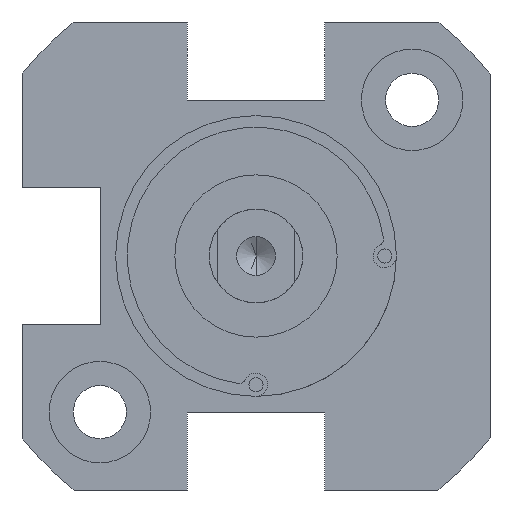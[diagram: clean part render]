
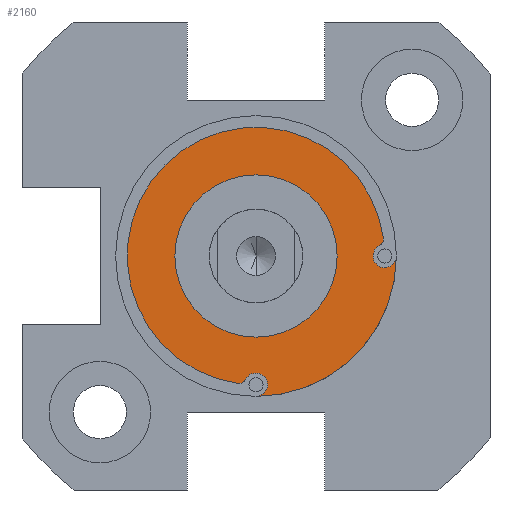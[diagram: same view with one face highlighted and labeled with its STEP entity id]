
A CAD part, front view. The second image highlights one B-rep face of the part: STEP entity #2160.
In plain terms, the highlighted planar face has unit normal (0, -1, 0).
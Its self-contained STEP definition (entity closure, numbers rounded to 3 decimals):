
#4 = DIRECTION ( 'NONE',  ( 0., 1., 0. ) ) ;
#69 = CARTESIAN_POINT ( 'NONE',  ( 0., -46.5, 5.2 ) ) ;
#106 = EDGE_CURVE ( 'NONE', #1520, #593, #2419, .T. ) ;
#136 = ORIENTED_EDGE ( 'NONE', *, *, #1880, .T. ) ;
#184 = CARTESIAN_POINT ( 'NONE',  ( -0.665, -46.5, -7.902 ) ) ;
#219 = VERTEX_POINT ( 'NONE', #184 ) ;
#292 = AXIS2_PLACEMENT_3D ( 'NONE', #2038, #522, #2797 ) ;
#301 = DIRECTION ( 'NONE',  ( 0., 0., -1. ) ) ;
#331 = ORIENTED_EDGE ( 'NONE', *, *, #2875, .F. ) ;
#355 = EDGE_LOOP ( 'NONE', ( #2633, #1077 ) ) ;
#408 = DIRECTION ( 'NONE',  ( 0., -1., 0. ) ) ;
#445 = DIRECTION ( 'NONE',  ( 0., 0., -1. ) ) ;
#495 = EDGE_CURVE ( 'NONE', #1599, #1920, #1984, .T. ) ;
#519 = CIRCLE ( 'NONE', #2704, 0.75 ) ;
#522 = DIRECTION ( 'NONE',  ( 0., 1., 0. ) ) ;
#525 = DIRECTION ( 'NONE',  ( 0., 1., 0. ) ) ;
#575 = DIRECTION ( 'NONE',  ( 0., -1., 0. ) ) ;
#577 = ORIENTED_EDGE ( 'NONE', *, *, #2897, .T. ) ;
#587 = FACE_OUTER_BOUND ( 'NONE', #1047, .T. ) ;
#593 = VERTEX_POINT ( 'NONE', #2685 ) ;
#659 = AXIS2_PLACEMENT_3D ( 'NONE', #1580, #575, #1842 ) ;
#667 = CARTESIAN_POINT ( 'NONE',  ( -1.108, -46.5, -7.67 ) ) ;
#724 = AXIS2_PLACEMENT_3D ( 'NONE', #3037, #525, #2284 ) ;
#818 = CIRCLE ( 'NONE', #1329, 0.5 ) ;
#898 = VERTEX_POINT ( 'NONE', #2708 ) ;
#916 = AXIS2_PLACEMENT_3D ( 'NONE', #667, #408, #445 ) ;
#994 = DIRECTION ( 'NONE',  ( 0., 0., 1. ) ) ;
#1047 = EDGE_LOOP ( 'NONE', ( #577, #2861, #1247, #331, #1976, #136, #2530, #2838 ) ) ;
#1069 = EDGE_CURVE ( 'NONE', #1920, #1599, #1143, .T. ) ;
#1077 = ORIENTED_EDGE ( 'NONE', *, *, #1069, .T. ) ;
#1090 = DIRECTION ( 'NONE',  ( 0., 0., 1. ) ) ;
#1126 = DIRECTION ( 'NONE',  ( 0., 0., 1. ) ) ;
#1143 = CIRCLE ( 'NONE', #724, 5.2 ) ;
#1221 = CIRCLE ( 'NONE', #292, 9. ) ;
#1247 = ORIENTED_EDGE ( 'NONE', *, *, #1893, .T. ) ;
#1277 = DIRECTION ( 'NONE',  ( 0., 0., -1. ) ) ;
#1329 = AXIS2_PLACEMENT_3D ( 'NONE', #2545, #2796, #1277 ) ;
#1355 = CARTESIAN_POINT ( 'NONE',  ( 0., -46.5, 0. ) ) ;
#1385 = CARTESIAN_POINT ( 'NONE',  ( 8.25, -46.5, 0. ) ) ;
#1411 = DIRECTION ( 'NONE',  ( 0., 0., 1. ) ) ;
#1440 = VERTEX_POINT ( 'NONE', #1481 ) ;
#1481 = CARTESIAN_POINT ( 'NONE',  ( 9., -46.5, 0. ) ) ;
#1520 = VERTEX_POINT ( 'NONE', #2474 ) ;
#1532 = CARTESIAN_POINT ( 'NONE',  ( 8.25, -46.5, 0. ) ) ;
#1556 = CARTESIAN_POINT ( 'NONE',  ( 0., -46.5, 0. ) ) ;
#1580 = CARTESIAN_POINT ( 'NONE',  ( 0., -46.5, 0. ) ) ;
#1599 = VERTEX_POINT ( 'NONE', #2146 ) ;
#1639 = CIRCLE ( 'NONE', #2552, 0.75 ) ;
#1662 = AXIS2_PLACEMENT_3D ( 'NONE', #1355, #2379, #1126 ) ;
#1757 = CIRCLE ( 'NONE', #2747, 0.75 ) ;
#1802 = DIRECTION ( 'NONE',  ( 0., 0., 1. ) ) ;
#1821 = DIRECTION ( 'NONE',  ( 0., -1., 0. ) ) ;
#1842 = DIRECTION ( 'NONE',  ( 0., 0., 1. ) ) ;
#1880 = EDGE_CURVE ( 'NONE', #593, #219, #2843, .T. ) ;
#1891 = DIRECTION ( 'NONE',  ( 0., 1., 0. ) ) ;
#1893 = EDGE_CURVE ( 'NONE', #898, #2968, #818, .T. ) ;
#1920 = VERTEX_POINT ( 'NONE', #69 ) ;
#1976 = ORIENTED_EDGE ( 'NONE', *, *, #106, .T. ) ;
#1984 = CIRCLE ( 'NONE', #1662, 5.2 ) ;
#2003 = EDGE_CURVE ( 'NONE', #1440, #2922, #1221, .T. ) ;
#2038 = CARTESIAN_POINT ( 'NONE',  ( 0., -46.5, 0. ) ) ;
#2074 = AXIS2_PLACEMENT_3D ( 'NONE', #1556, #3023, #994 ) ;
#2146 = CARTESIAN_POINT ( 'NONE',  ( 0., -46.5, -5.2 ) ) ;
#2160 = ADVANCED_FACE ( 'NONE', ( #587, #2840 ), #3084, .T. ) ;
#2284 = DIRECTION ( 'NONE',  ( 0., 0., 1. ) ) ;
#2317 = CARTESIAN_POINT ( 'NONE',  ( -1.108, -46.5, -7.67 ) ) ;
#2379 = DIRECTION ( 'NONE',  ( 0., 1., 0. ) ) ;
#2419 = CIRCLE ( 'NONE', #916, 0.5 ) ;
#2422 = CIRCLE ( 'NONE', #2074, 8.25 ) ;
#2474 = CARTESIAN_POINT ( 'NONE',  ( -1.179, -46.5, -8.165 ) ) ;
#2530 = ORIENTED_EDGE ( 'NONE', *, *, #2638, .T. ) ;
#2545 = CARTESIAN_POINT ( 'NONE',  ( 7.67, -46.5, 1.108 ) ) ;
#2552 = AXIS2_PLACEMENT_3D ( 'NONE', #3174, #3150, #1411 ) ;
#2557 = CARTESIAN_POINT ( 'NONE',  ( 8.165, -46.5, 1.179 ) ) ;
#2633 = ORIENTED_EDGE ( 'NONE', *, *, #495, .T. ) ;
#2638 = EDGE_CURVE ( 'NONE', #219, #2922, #1639, .T. ) ;
#2685 = CARTESIAN_POINT ( 'NONE',  ( -1.108, -46.5, -8.17 ) ) ;
#2704 = AXIS2_PLACEMENT_3D ( 'NONE', #1385, #1891, #1090 ) ;
#2708 = CARTESIAN_POINT ( 'NONE',  ( 7.902, -46.5, 0.665 ) ) ;
#2728 = CARTESIAN_POINT ( 'NONE',  ( 8.25, -46.5, -0.75 ) ) ;
#2739 = VERTEX_POINT ( 'NONE', #2728 ) ;
#2747 = AXIS2_PLACEMENT_3D ( 'NONE', #1532, #4, #1802 ) ;
#2796 = DIRECTION ( 'NONE',  ( 0., -1., 0. ) ) ;
#2797 = DIRECTION ( 'NONE',  ( 0., 0., 1. ) ) ;
#2838 = ORIENTED_EDGE ( 'NONE', *, *, #2003, .F. ) ;
#2840 = FACE_BOUND ( 'NONE', #355, .T. ) ;
#2843 = CIRCLE ( 'NONE', #3112, 0.5 ) ;
#2861 = ORIENTED_EDGE ( 'NONE', *, *, #3136, .T. ) ;
#2875 = EDGE_CURVE ( 'NONE', #1520, #2968, #2422, .T. ) ;
#2897 = EDGE_CURVE ( 'NONE', #1440, #2739, #1757, .T. ) ;
#2922 = VERTEX_POINT ( 'NONE', #3040 ) ;
#2968 = VERTEX_POINT ( 'NONE', #2557 ) ;
#3023 = DIRECTION ( 'NONE',  ( 0., 1., 0. ) ) ;
#3037 = CARTESIAN_POINT ( 'NONE',  ( 0., -46.5, 0. ) ) ;
#3040 = CARTESIAN_POINT ( 'NONE',  ( 0., -46.5, -9. ) ) ;
#3084 = PLANE ( 'NONE',  #659 ) ;
#3112 = AXIS2_PLACEMENT_3D ( 'NONE', #2317, #1821, #301 ) ;
#3136 = EDGE_CURVE ( 'NONE', #2739, #898, #519, .T. ) ;
#3150 = DIRECTION ( 'NONE',  ( 0., 1., 0. ) ) ;
#3174 = CARTESIAN_POINT ( 'NONE',  ( 0., -46.5, -8.25 ) ) ;
